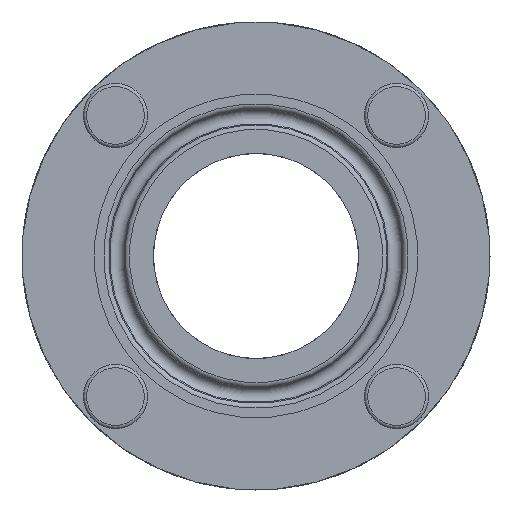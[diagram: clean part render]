
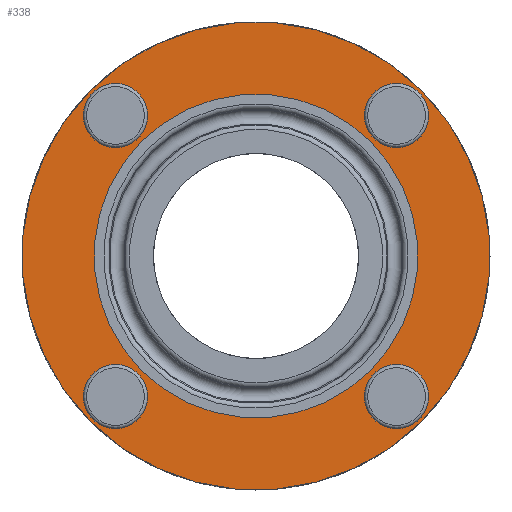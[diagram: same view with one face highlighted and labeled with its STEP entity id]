
A CAD part, front view. The second image highlights one B-rep face of the part: STEP entity #338.
In plain terms, the highlighted planar face has unit normal (0, -1, 0).
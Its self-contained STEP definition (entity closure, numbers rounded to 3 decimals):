
#338=ADVANCED_FACE('',(#520,#521,#522,#523,#524,#525),#440,.T.);
#440=PLANE('',#1712);
#520=FACE_BOUND('',#666,.T.);
#521=FACE_BOUND('',#667,.T.);
#522=FACE_BOUND('',#668,.T.);
#523=FACE_BOUND('',#669,.T.);
#524=FACE_BOUND('',#670,.T.);
#525=FACE_BOUND('',#671,.T.);
#666=EDGE_LOOP('',(#888));
#667=EDGE_LOOP('',(#889));
#668=EDGE_LOOP('',(#890));
#669=EDGE_LOOP('',(#891));
#670=EDGE_LOOP('',(#892));
#671=EDGE_LOOP('',(#893));
#888=ORIENTED_EDGE('',*,*,#1340,.T.);
#889=ORIENTED_EDGE('',*,*,#1343,.T.);
#890=ORIENTED_EDGE('',*,*,#1346,.T.);
#891=ORIENTED_EDGE('',*,*,#1349,.T.);
#892=ORIENTED_EDGE('',*,*,#1351,.T.);
#893=ORIENTED_EDGE('',*,*,#1366,.F.);
#1189=VERTEX_POINT('',#2561);
#1192=VERTEX_POINT('',#2569);
#1195=VERTEX_POINT('',#2577);
#1198=VERTEX_POINT('',#2585);
#1200=VERTEX_POINT('',#2591);
#1215=VERTEX_POINT('',#2633);
#1340=EDGE_CURVE('',#1189,#1189,#1507,.T.);
#1343=EDGE_CURVE('',#1192,#1192,#1510,.T.);
#1346=EDGE_CURVE('',#1195,#1195,#1513,.T.);
#1349=EDGE_CURVE('',#1198,#1198,#1516,.T.);
#1351=EDGE_CURVE('',#1200,#1200,#1518,.T.);
#1366=EDGE_CURVE('',#1215,#1215,#1533,.T.);
#1507=CIRCLE('',#1665,5.);
#1510=CIRCLE('',#1670,5.);
#1513=CIRCLE('',#1675,5.);
#1516=CIRCLE('',#1680,5.);
#1518=CIRCLE('',#1684,20.);
#1533=CIRCLE('',#1711,36.5);
#1665=AXIS2_PLACEMENT_3D('',#2560,#1978,#1979);
#1670=AXIS2_PLACEMENT_3D('',#2568,#1988,#1989);
#1675=AXIS2_PLACEMENT_3D('',#2576,#1998,#1999);
#1680=AXIS2_PLACEMENT_3D('',#2584,#2008,#2009);
#1684=AXIS2_PLACEMENT_3D('',#2590,#2016,#2017);
#1711=AXIS2_PLACEMENT_3D('',#2632,#2070,#2071);
#1712=AXIS2_PLACEMENT_3D('',#2634,#2072,#2073);
#1978=DIRECTION('',(0.,1.,0.));
#1979=DIRECTION('',(0.,0.,-1.));
#1988=DIRECTION('',(0.,1.,0.));
#1989=DIRECTION('',(0.,0.,-1.));
#1998=DIRECTION('',(0.,1.,0.));
#1999=DIRECTION('',(0.,0.,-1.));
#2008=DIRECTION('',(0.,1.,0.));
#2009=DIRECTION('',(0.,0.,-1.));
#2016=DIRECTION('',(0.,1.,0.));
#2017=DIRECTION('',(0.707,0.,-0.707));
#2070=DIRECTION('',(0.,1.,0.));
#2071=DIRECTION('',(-0.707,0.,0.707));
#2072=DIRECTION('',(0.,-1.,0.));
#2073=DIRECTION('',(0.707,0.,-0.707));
#2560=CARTESIAN_POINT('',(-21.92,-44.,-21.92));
#2561=CARTESIAN_POINT('',(-21.92,-44.,-26.92));
#2568=CARTESIAN_POINT('',(-21.92,-44.,21.92));
#2569=CARTESIAN_POINT('',(-21.92,-44.,16.92));
#2576=CARTESIAN_POINT('',(21.92,-44.,-21.92));
#2577=CARTESIAN_POINT('',(21.92,-44.,-26.92));
#2584=CARTESIAN_POINT('',(21.92,-44.,21.92));
#2585=CARTESIAN_POINT('',(21.92,-44.,16.92));
#2590=CARTESIAN_POINT('',(0.,-44.,0.));
#2591=CARTESIAN_POINT('',(14.142,-44.,-14.142));
#2632=CARTESIAN_POINT('',(0.,-44.,0.));
#2633=CARTESIAN_POINT('',(-25.809,-44.,25.809));
#2634=CARTESIAN_POINT('',(0.,-44.,0.));
